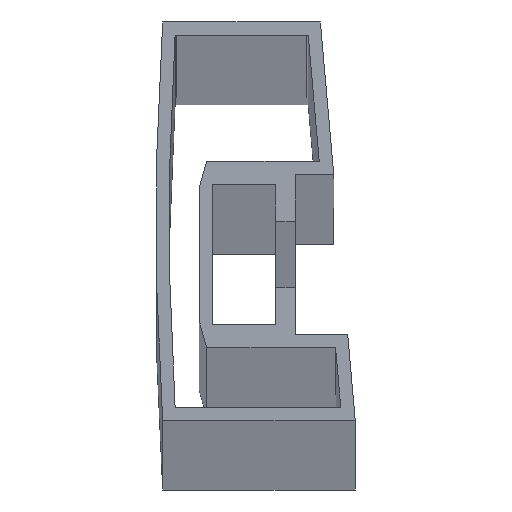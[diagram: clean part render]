
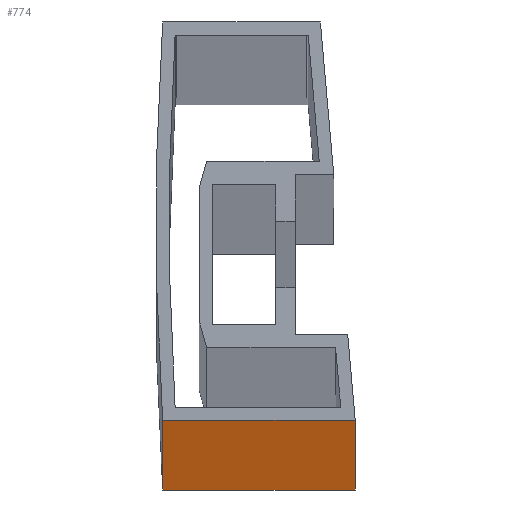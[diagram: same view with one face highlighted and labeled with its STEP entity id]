
A CAD part, top view. The second image highlights one B-rep face of the part: STEP entity #774.
In plain terms, the highlighted planar face has unit normal (0, -1, 0).
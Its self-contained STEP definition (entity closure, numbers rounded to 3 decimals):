
#8 = DIRECTION ( 'NONE',  ( 1., 0., 0. ) ) ;
#17 = CARTESIAN_POINT ( 'NONE',  ( 1., 0., 0. ) ) ;
#52 = VECTOR ( 'NONE', #792, 1000. ) ;
#88 = EDGE_CURVE ( 'NONE', #190, #688, #470, .T. ) ;
#99 = CARTESIAN_POINT ( 'NONE',  ( 30., 0., -6000. ) ) ;
#110 = AXIS2_PLACEMENT_3D ( 'NONE', #475, #931, #619 ) ;
#151 = DIRECTION ( 'NONE',  ( 0., 0., 1. ) ) ;
#190 = VERTEX_POINT ( 'NONE', #650 ) ;
#235 = FACE_OUTER_BOUND ( 'NONE', #989, .T. ) ;
#284 = DIRECTION ( 'NONE',  ( 1., 0., 0. ) ) ;
#303 = EDGE_CURVE ( 'NONE', #712, #190, #531, .T. ) ;
#312 = EDGE_CURVE ( 'NONE', #712, #901, #762, .T. ) ;
#405 = PLANE ( 'NONE',  #110 ) ;
#444 = CARTESIAN_POINT ( 'NONE',  ( 1., 0., -6000. ) ) ;
#464 = ORIENTED_EDGE ( 'NONE', *, *, #303, .T. ) ;
#470 = LINE ( 'NONE', #99, #52 ) ;
#475 = CARTESIAN_POINT ( 'NONE',  ( 1.936, 0., -6000. ) ) ;
#508 = VECTOR ( 'NONE', #151, 1000. ) ;
#518 = CARTESIAN_POINT ( 'NONE',  ( 1.936, 0., -6000. ) ) ;
#531 = LINE ( 'NONE', #518, #760 ) ;
#533 = CARTESIAN_POINT ( 'NONE',  ( 30., 0., 0. ) ) ;
#537 = ORIENTED_EDGE ( 'NONE', *, *, #312, .F. ) ;
#543 = ORIENTED_EDGE ( 'NONE', *, *, #88, .T. ) ;
#553 = VECTOR ( 'NONE', #284, 1000. ) ;
#560 = ORIENTED_EDGE ( 'NONE', *, *, #595, .F. ) ;
#595 = EDGE_CURVE ( 'NONE', #901, #688, #885, .T. ) ;
#619 = DIRECTION ( 'NONE',  ( 0., 0., -1. ) ) ;
#650 = CARTESIAN_POINT ( 'NONE',  ( 30., 0., -6000. ) ) ;
#688 = VERTEX_POINT ( 'NONE', #533 ) ;
#712 = VERTEX_POINT ( 'NONE', #444 ) ;
#760 = VECTOR ( 'NONE', #8, 1000. ) ;
#762 = LINE ( 'NONE', #840, #508 ) ;
#774 = ADVANCED_FACE ( 'NONE', ( #235 ), #405, .T. ) ;
#792 = DIRECTION ( 'NONE',  ( 0., 0., 1. ) ) ;
#840 = CARTESIAN_POINT ( 'NONE',  ( 1., 0., -6000. ) ) ;
#885 = LINE ( 'NONE', #970, #553 ) ;
#901 = VERTEX_POINT ( 'NONE', #17 ) ;
#931 = DIRECTION ( 'NONE',  ( 0., -1., 0. ) ) ;
#970 = CARTESIAN_POINT ( 'NONE',  ( 1.936, 0., 0. ) ) ;
#989 = EDGE_LOOP ( 'NONE', ( #560, #537, #464, #543 ) ) ;
